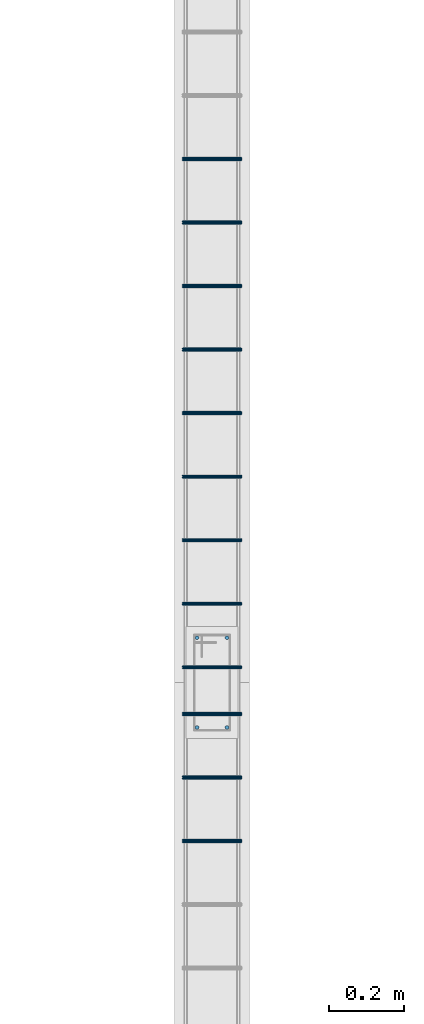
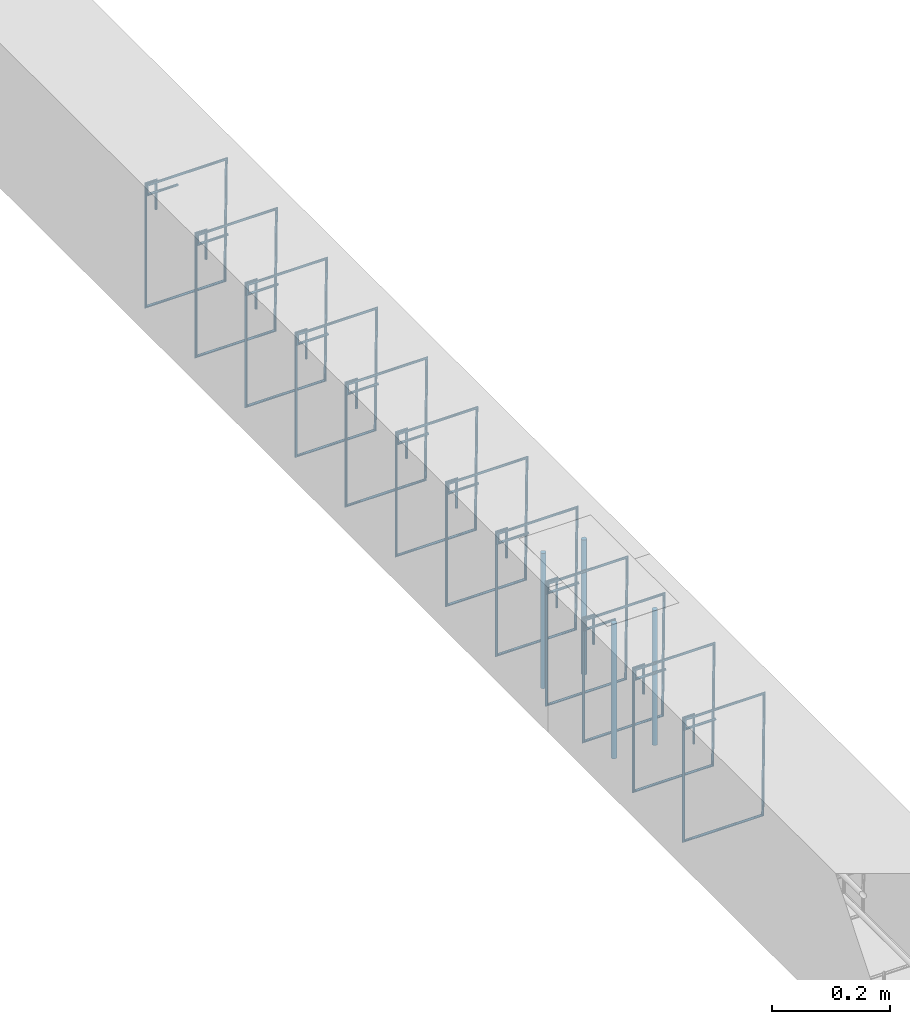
# One storey, part 80 of 150: 16 reinforcing bars.
"""IFC4 building model written with IfcOpenShell, lengths in centimetres."""

from ifc_helpers import new_model, entity, si_unit, derived_unit, frame, origin_with_axes, place, context, project, spatial, source, transform, mapped, element, save


model = new_model("IFC4")

# Units and contexts
model_context = context("Model", 3, precision=1e-05, world=origin_with_axes(), identifier="Body")
ifc_project = project(units=[si_unit("LENGTHUNIT", "METRE", prefix="CENTI"), si_unit("VOLUMEUNIT", "CUBIC_METRE"), si_unit("AREAUNIT", "SQUARE_METRE"), si_unit("POWERUNIT", "WATT"), si_unit("LUMINOUSFLUXUNIT", "LUMEN"), si_unit("ELECTRICCURRENTUNIT", "AMPERE"), si_unit("PRESSUREUNIT", "PASCAL", prefix="KILO"), si_unit("MASSUNIT", "GRAM", prefix="KILO"), si_unit("PLANEANGLEUNIT", "RADIAN"), derived_unit("VOLUMETRICFLOWRATEUNIT", [(si_unit("LENGTHUNIT", "METRE"), 3), (si_unit("TIMEUNIT", "SECOND"), -1)])], contexts=[model_context])

# Site, building, storey
site_placement = place(None, frame((-4000.0, 0.0, 0.0), z_axis=(0.0, 0.0, 1.0), x_axis=(1.0, 0.0, 0.0)))
site = spatial("IfcSite", under=ifc_project, at=site_placement, Name="PADRÃO")
building_placement = place(site_placement, frame((0.0, 0.0, -14.0)))
building = spatial("IfcBuilding", under=site, at=building_placement, Name="CRECHE PRÉ-ESCOLA TIPO 2")
placement = place(building_placement, origin_with_axes())
storey_placement = place(placement, frame((0.0, 0.0, 30.0), z_axis=(0.0, 0.0, 1.0), x_axis=(1.0, 0.0, 0.0)))
storey = spatial("IfcBuildingStorey", under=building, at=storey_placement, Name="VIGA BALDRAME", CompositionType="ELEMENT", Elevation=16.0)

# Reinforcing bars
shared_shape_1 = source(origin_with_axes(), model_context, "Body", "AdvancedSweptSolid", [
    entity("IfcSweptDiskSolid", entity("IfcCompositeCurve", [entity("IfcCompositeCurveSegment", "CONTINUOUS", True, entity("IfcPolyline", [entity("IfcCartesianPoint", [2.0, -6.0, 0.0]), entity("IfcCartesianPoint", [2.0, 0.0, 0.0])])), entity("IfcCompositeCurveSegment", "CONTINUOUS", True, entity("IfcPolyline", [entity("IfcCartesianPoint", [2.0, 0.0, 0.0]), entity("IfcCartesianPoint", [0.0, 0.0, 0.0])])), entity("IfcCompositeCurveSegment", "CONTINUOUS", True, entity("IfcPolyline", [entity("IfcCartesianPoint", [0.0, 0.0, 0.0]), entity("IfcCartesianPoint", [0.0, -25.5, 0.0])])), entity("IfcCompositeCurveSegment", "CONTINUOUS", True, entity("IfcPolyline", [entity("IfcCartesianPoint", [0.0, -25.5, 0.0]), entity("IfcCartesianPoint", [15.5, -25.5, 0.0])])), entity("IfcCompositeCurveSegment", "CONTINUOUS", True, entity("IfcPolyline", [entity("IfcCartesianPoint", [15.5, -25.5, 0.0]), entity("IfcCartesianPoint", [15.5, 0.0, 0.5])])), entity("IfcCompositeCurveSegment", "CONTINUOUS", True, entity("IfcPolyline", [entity("IfcCartesianPoint", [15.5, 0.0, 0.5]), entity("IfcCartesianPoint", [0.0, 0.0, 0.5])])), entity("IfcCompositeCurveSegment", "CONTINUOUS", True, entity("IfcPolyline", [entity("IfcCartesianPoint", [0.0, 0.0, 0.5]), entity("IfcCartesianPoint", [0.0, -2.0, 0.5])])), entity("IfcCompositeCurveSegment", "CONTINUOUS", True, entity("IfcPolyline", [entity("IfcCartesianPoint", [0.0, -2.0, 0.5]), entity("IfcCartesianPoint", [6.0, -2.0, 0.5])]))], False), 0.25),
])
for number, where, z_axis, x_axis, name in (
    (1, (2975.25, 2209.645, -2.25), (0.0, -1.0, 0.0), (1.0, 0.0, 0.0), "V212 - Estribo"),
    (2, (2975.25, 2226.645, -2.25), (0.0, -1.0, 0.0), (1.0, 0.0, 0.0), "V212 - Estribo"),
    (3, (2975.25, 2243.645, -2.25), (0.0, -1.0, 0.0), (1.0, 0.0, 0.0), "V212 - Estribo"),
):
    element("IfcReinforcingBar", number, at=place(storey_placement, frame(where, z_axis=z_axis, x_axis=x_axis)), inside=storey, Name=name, BarLength=0.0, CrossSectionArea=1.9634954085e-05, NominalDiameter=0.5, PredefinedType="MAIN", context=model_context, shape_type="MappedRepresentation", body=[
        mapped(shared_shape_1, transform((0.0, 0.0, 0.0), scale=1.0)),
    ])
shared_shape_2 = source(origin_with_axes(), model_context, "Body", "AdvancedSweptSolid", [
    entity("IfcSweptDiskSolid", entity("IfcCompositeCurve", [entity("IfcCompositeCurveSegment", "CONTINUOUS", True, entity("IfcPolyline", [entity("IfcCartesianPoint", [2.0, -6.0, 0.0]), entity("IfcCartesianPoint", [2.0, 0.0, 0.0])])), entity("IfcCompositeCurveSegment", "CONTINUOUS", True, entity("IfcPolyline", [entity("IfcCartesianPoint", [2.0, 0.0, 0.0]), entity("IfcCartesianPoint", [0.0, 0.0, 0.0])])), entity("IfcCompositeCurveSegment", "CONTINUOUS", True, entity("IfcPolyline", [entity("IfcCartesianPoint", [0.0, 0.0, 0.0]), entity("IfcCartesianPoint", [0.0, -25.5, 0.0])])), entity("IfcCompositeCurveSegment", "CONTINUOUS", True, entity("IfcPolyline", [entity("IfcCartesianPoint", [0.0, -25.5, 0.0]), entity("IfcCartesianPoint", [15.5, -25.5, 0.0])])), entity("IfcCompositeCurveSegment", "CONTINUOUS", True, entity("IfcPolyline", [entity("IfcCartesianPoint", [15.5, -25.5, 0.0]), entity("IfcCartesianPoint", [15.5, 0.0, 0.5])])), entity("IfcCompositeCurveSegment", "CONTINUOUS", True, entity("IfcPolyline", [entity("IfcCartesianPoint", [15.5, 0.0, 0.5]), entity("IfcCartesianPoint", [0.0, 0.0, 0.5])])), entity("IfcCompositeCurveSegment", "CONTINUOUS", True, entity("IfcPolyline", [entity("IfcCartesianPoint", [0.0, 0.0, 0.5]), entity("IfcCartesianPoint", [0.0, -2.0, 0.5])])), entity("IfcCompositeCurveSegment", "CONTINUOUS", True, entity("IfcPolyline", [entity("IfcCartesianPoint", [0.0, -2.0, 0.5]), entity("IfcCartesianPoint", [6.0, -2.0, 0.5])]))], False), 0.25),
])
for number, where, z_axis, x_axis, name in (
    (4, (2975.25, 2341.145, -2.25), (0.0, -1.0, 0.0), (1.0, 0.0, 0.0), "V212 - Estribo"),
    (5, (2975.25, 2358.145, -2.25), (0.0, -1.0, 0.0), (1.0, 0.0, 0.0), "V212 - Estribo"),
    (6, (2975.25, 2375.145, -2.25), (0.0, -1.0, 0.0), (1.0, 0.0, 0.0), "V212 - Estribo"),
    (7, (2975.25, 2392.145, -2.25), (0.0, -1.0, 0.0), (1.0, 0.0, 0.0), "V212 - Estribo"),
    (8, (2975.25, 2256.145, -2.25), (0.0, -1.0, 0.0), (1.0, 0.0, 0.0), "V212 - Estribo"),
    (9, (2975.25, 2273.145, -2.25), (0.0, -1.0, 0.0), (1.0, 0.0, 0.0), "V212 - Estribo"),
    (10, (2975.25, 2290.145, -2.25), (0.0, -1.0, 0.0), (1.0, 0.0, 0.0), "V212 - Estribo"),
    (11, (2975.25, 2307.145, -2.25), (0.0, -1.0, 0.0), (1.0, 0.0, 0.0), "V212 - Estribo"),
    (12, (2975.25, 2324.145, -2.25), (0.0, -1.0, 0.0), (1.0, 0.0, 0.0), "V212 - Estribo"),
):
    element("IfcReinforcingBar", number, at=place(storey_placement, frame(where, z_axis=z_axis, x_axis=x_axis)), inside=storey, Name=name, BarLength=0.0, CrossSectionArea=1.9634954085e-05, NominalDiameter=0.5, PredefinedType="MAIN", context=model_context, shape_type="MappedRepresentation", body=[
        mapped(shared_shape_2, transform((0.0, 0.0, 0.0), scale=1.0)),
    ])
for number, where, z_axis, x_axis, name in (
    (13, (2979.0, 2239.77, -2.0), (0.0, 0.0, 1.0), (1.0, 0.0, 0.0), "P80 - Longitudinal"),
    (14, (2979.0, 2263.77, -2.0), (0.0, 0.0, 1.0), (1.0, 0.0, 0.0), "P80 - Longitudinal"),
    (15, (2987.0, 2239.77, -2.0), (0.0, 0.0, 1.0), (1.0, 0.0, 0.0), "P80 - Longitudinal"),
    (16, (2987.0, 2263.77, -2.0), (0.0, 0.0, 1.0), (1.0, 0.0, 0.0), "P80 - Longitudinal"),
):
    element("IfcReinforcingBar", number, at=place(storey_placement, frame(where, z_axis=z_axis, x_axis=x_axis)), inside=storey, Name=name, BarLength=0.0, CrossSectionArea=7.853981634e-05, NominalDiameter=1.0, PredefinedType="MAIN", context=model_context, shape_type="AdvancedSweptSolid", body=[
        entity("IfcSweptDiskSolid", entity("IfcCompositeCurve", [entity("IfcCompositeCurveSegment", "CONTINUOUS", True, entity("IfcPolyline", [entity("IfcCartesianPoint", [0.0, 0.0, -28.0]), entity("IfcCartesianPoint", [0.0, 0.0, 0.0])]))], False), 0.5),
    ])

save(model, "model.ifc")
